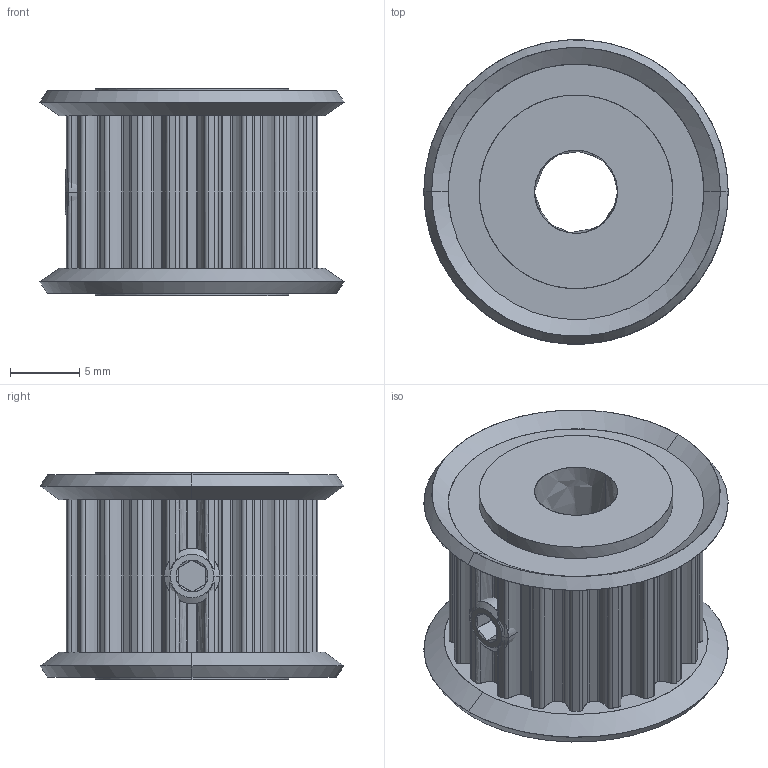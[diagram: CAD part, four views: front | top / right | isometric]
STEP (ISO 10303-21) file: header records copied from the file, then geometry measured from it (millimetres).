
FILE_DESCRIPTION(/* description */ (''),/* implementation_level */ '2;1');
FILE_NAME(/* name */ '8.x-drive#8.4#GPA20GT3090-A-P6',/* time_stamp */ '2014-12-01T20:18:12+01:00',/* author */ (''),/* organization */ (''),/* preprocessor_version */ 'ST-DEVELOPER v14',/* originating_system */ '',/* authorisation */ '');
FILE_SCHEMA (('AUTOMOTIVE_DESIGN'));
Length unit declared in the file: millimetre
Products named in the file (2): Document; pulley GPA20GT3090-A-P6
Assembly tree (1 placements, depth 2):
  Document
    pulley GPA20GT3090-A-P6
Bounding box: 22 x 21.97 x 15 mm (x, y, z)
Surface area: 2120.5 mm2 (no closed solid volume)
Topology: 0 solids, 248 shells, 248 faces, 917 edges, 917 vertices
Faces by surface type: bspline 224, plane 24
Entity records: 23095 total; most frequent: CARTESIAN_POINT 12622, B_SPLINE_CURVE_WITH_KNOTS 1362, ORIENTED_EDGE 917, PCURVE 917, DEFINITIONAL_REPRESENTATION 917, SURFACE_CURVE 917, EDGE_CURVE 917, VERTEX_POINT 917
